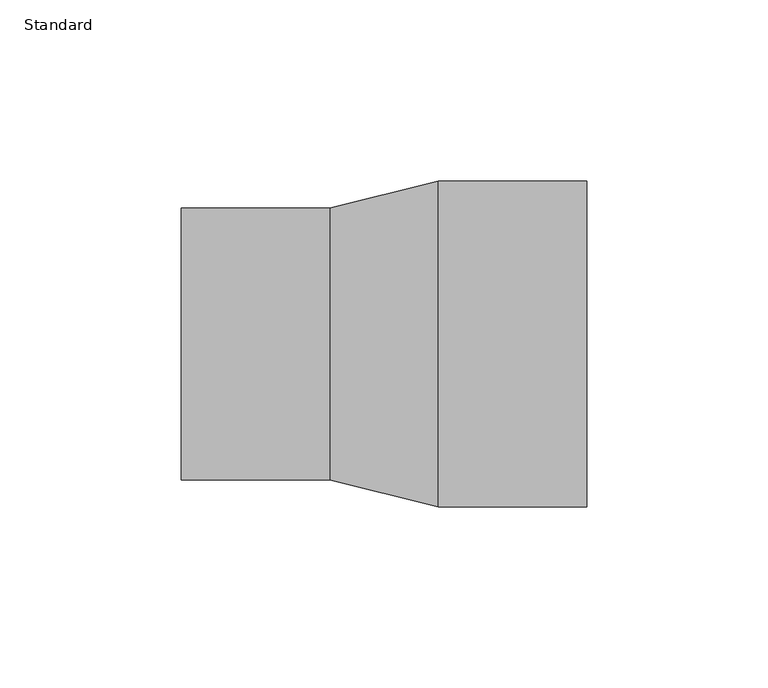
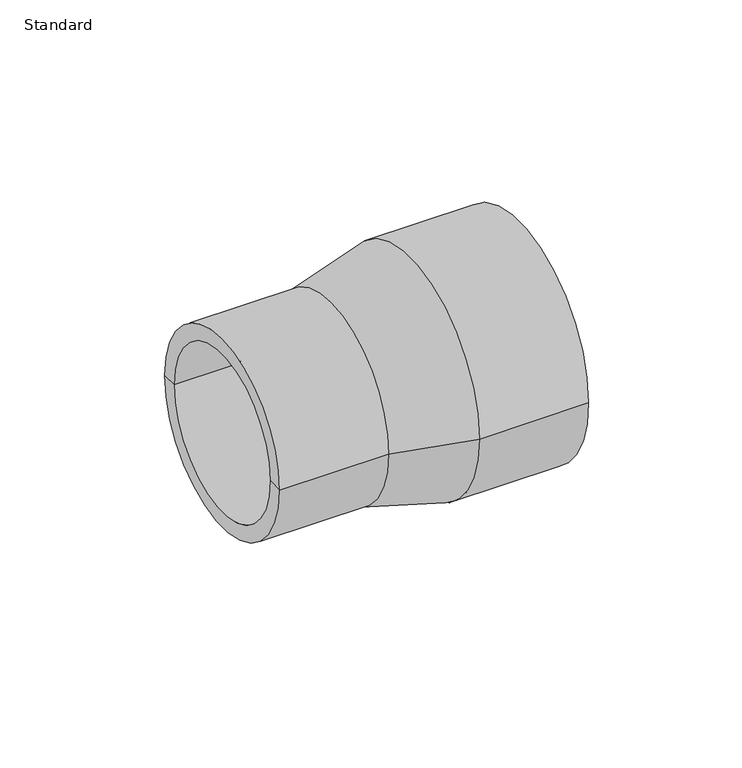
"""IFC4 building model written with IfcOpenShell, lengths in millimetres: pipe fitting geometry, Durapipe_PipeFitting_PVC_Reducers : Standard."""

from ifc_helpers import new_model, si_unit, frame, origin, place, context, project, spatial, polyline, circle_curve, source, transform, mapped, element, save
from ifc_brep_helpers import plane_surface, cylinder_surface, revolved_surface, advanced_brep


def standard_017ffeb0(model_context):
    return source(origin(), model_context, "Body", "AdvancedBrep", [
        advanced_brep(
        [(-56.0, -37.5, 0.0), (-56.0, 37.5, 0.0), (-15.0, 37.5, 0.0), (-15.0, -37.5, 0.0), (-56.0, -31.5, 0.0), (-56.0, 31.5, 0.0), (56.0, -45.0, 0.0), (56.0, 45.0, 0.0), (56.0, 37.5, 0.0), (56.0, -37.5, 0.0), (15.0, -45.0, 0.0), (15.0, 45.0, 0.0), (-15.0, -31.5, 0.0), (-15.0, 31.5, 0.0), (-15.0, 0.0, 0.0), (15.0, -37.5, 0.0), (15.0, 37.5, 0.0), (15.0, 0.0, 0.0)],
        [
            (0, 1, circle_curve(frame((-56.0, 0.0, 0.0), z_axis=(1.0, 0.0, 0.0), x_axis=(0.0, 1.0, 0.0)), 37.5)),
            (1, 2),
            (2, 3, circle_curve(frame((-15.0, 0.0, 0.0), z_axis=(-1.0, 0.0, 0.0), x_axis=(0.0, 1.0, 0.0)), 37.5)),
            (3, 0),
            (1, 0, circle_curve(frame((-56.0, 0.0, 0.0), z_axis=(1.0, 0.0, 0.0), x_axis=(0.0, 1.0, 0.0)), 37.5)),
            (3, 2, circle_curve(frame((-15.0, 0.0, 0.0), z_axis=(-1.0, 0.0, 0.0), x_axis=(0.0, 1.0, 0.0)), 37.5)),
            (4, 5, circle_curve(frame((-56.0, 0.0, 0.0), z_axis=(1.0, 0.0, 0.0), x_axis=(0.0, 1.0, 0.0)), 31.5)),
            (5, 1),
            (0, 4),
            (5, 4, circle_curve(frame((-56.0, 0.0, 0.0), z_axis=(1.0, 0.0, 0.0), x_axis=(0.0, 1.0, 0.0)), 31.5)),
            (6, 7, circle_curve(frame((56.0, 0.0, 0.0), z_axis=(1.0, 0.0, 0.0), x_axis=(0.0, 1.0, 0.0)), 45.0)),
            (7, 8),
            (8, 9, circle_curve(frame((56.0, 0.0, 0.0), z_axis=(-1.0, 0.0, 0.0), x_axis=(0.0, 1.0, 0.0)), 37.5)),
            (9, 6),
            (7, 6, circle_curve(frame((56.0, 0.0, 0.0), z_axis=(1.0, 0.0, 0.0), x_axis=(0.0, 1.0, 0.0)), 45.0)),
            (9, 8, circle_curve(frame((56.0, 0.0, 0.0), z_axis=(-1.0, 0.0, 0.0), x_axis=(0.0, 1.0, 0.0)), 37.5)),
            (10, 11, circle_curve(frame((15.0, 0.0, 0.0), z_axis=(1.0, 0.0, 0.0), x_axis=(0.0, 1.0, 0.0)), 45.0)),
            (11, 7),
            (6, 10),
            (11, 10, circle_curve(frame((15.0, 0.0, 0.0), z_axis=(1.0, 0.0, 0.0), x_axis=(0.0, 1.0, 0.0)), 45.0)),
            (2, 11),
            (10, 3),
            (12, 13, circle_curve(frame((-15.0, 0.0, 0.0), z_axis=(1.0, 0.0, 0.0), x_axis=(0.0, 1.0, 0.0)), 31.5)),
            (13, 5),
            (4, 12),
            (13, 12, circle_curve(frame((-15.0, 0.0, 0.0), z_axis=(1.0, 0.0, 0.0), x_axis=(0.0, 1.0, 0.0)), 31.5)),
            (14, 13),
            (12, 14),
            (15, 16, circle_curve(frame((15.0, 0.0, 0.0), z_axis=(1.0, 0.0, 0.0), x_axis=(0.0, 1.0, 0.0)), 37.5)),
            (16, 17),
            (17, 15),
            (16, 15, circle_curve(frame((15.0, 0.0, 0.0), z_axis=(1.0, 0.0, 0.0), x_axis=(0.0, 1.0, 0.0)), 37.5)),
            (8, 16),
            (15, 9),
        ],
        [
            cylinder_surface(frame((-56.0, 0.0, 0.0), z_axis=(-1.0, 0.0, 0.0), x_axis=(0.0, 1.0, 0.0)), 37.5),
            plane_surface(frame((-56.0, 0.0, 0.0), z_axis=(-1.0, 0.0, 0.0), x_axis=(0.0, 1.0, 0.0))),
            plane_surface(frame((56.0, 0.0, 0.0), z_axis=(1.0, 0.0, 0.0), x_axis=(0.0, 1.0, 0.0))),
            cylinder_surface(frame((-56.0, 0.0, 0.0), z_axis=(-1.0, 0.0, 0.0), x_axis=(0.0, 1.0, 0.0)), 45.0),
            revolved_surface(polyline([(15.0, 45.0, 0.0), (-15.0, 37.5, 0.0)]), (-56.0, 0.0, 0.0), (-1.0, 0.0, 0.0)),
            revolved_surface(polyline([(-56.0, 31.5, 0.0), (-15.0, 31.5, 0.0)]), (-56.0, 0.0, 0.0), (-1.0, 0.0, 0.0)),
            plane_surface(frame((-15.0, 0.0, 0.0), z_axis=(-1.0, 0.0, 0.0), x_axis=(0.0, 1.0, 0.0))),
            plane_surface(frame((15.0, 0.0, 0.0), z_axis=(1.0, 0.0, 0.0), x_axis=(0.0, 1.0, 0.0))),
            revolved_surface(polyline([(15.0, 37.5, 0.0), (56.0, 37.5, 0.0)]), (-56.0, 0.0, 0.0), (-1.0, 0.0, 0.0)),
        ],
        [
            (0, [[1, 2, 3, 4]]),
            (0, [[5, -4, 6, -2]]),
            (1, [[7, 8, -1, 9]]),
            (1, [[10, -9, -5, -8]]),
            (2, [[11, 12, 13, 14]]),
            (2, [[15, -14, 16, -12]]),
            (3, [[17, 18, -11, 19]]),
            (3, [[20, -19, -15, -18]]),
            (4, [[-3, 21, -17, 22]]),
            (4, [[-6, -22, -20, -21]]),
            (5, [[23, 24, -7, 25]]),
            (5, [[26, -25, -10, -24]]),
            (6, [[27, -23, 28]]),
            (6, [[-28, -26, -27]]),
            (7, [[29, 30, 31]]),
            (7, [[32, -31, -30]]),
            (8, [[-13, 33, -29, 34]]),
            (8, [[-16, -34, -32, -33]]),
        ],
    ),
    ])


if __name__ == "__main__":
    model = new_model("IFC4")
    model_context = context("Model", 3, world=origin())
    ifc_project = project(units=[si_unit("LENGTHUNIT", "METRE", prefix="MILLI")], contexts=[model_context])
    site = spatial("IfcSite", under=ifc_project)
    building = spatial("IfcBuilding", under=site)
    placement = place(None, origin())
    standard_shape = standard_017ffeb0(model_context)
    element("IfcPipeFitting", 1, ObjectType="Durapipe_PipeFitting_PVC_Reducers : Standard", at=placement, inside=building, context=model_context, shape_type="MappedRepresentation", body=[
        mapped(standard_shape, transform((0.0, 0.0, 0.0), x_axis=(1.0, 0.0, 0.0), y_axis=(0.0, 1.0, 0.0), z_axis=(0.0, 0.0, 1.0))),
    ])
    save(model, "model.ifc")
